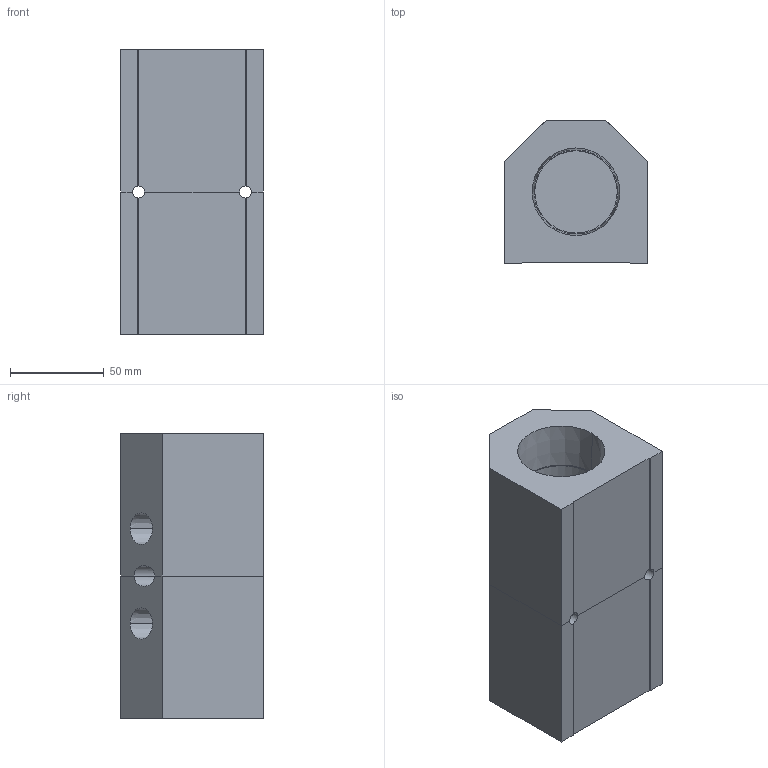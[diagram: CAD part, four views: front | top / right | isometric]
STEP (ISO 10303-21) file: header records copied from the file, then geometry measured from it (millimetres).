
FILE_DESCRIPTION (( 'STEP AP214' ), '1' );
FILE_NAME ('ALM2BD-N6N24-152RB.step', '2022-02-07T09:15:51', ( '' ), ( '' ), 'SwSTEP 2.0', 'SolidWorks 2020', '' );
FILE_SCHEMA (( 'AUTOMOTIVE_DESIGN' ));
Length unit declared in the file: millimetre
Products named in the file (1): ALM2BD-N6N24-152RB
Bounding box: 76.2 x 76.2 x 152 mm (x, y, z)
Volume: 549585.4 mm3; surface area: 87077.1 mm2
Topology: 2 solids, 2 shells, 335 faces, 880 edges, 586 vertices
Faces by surface type: plane 239, bspline 68, cylinder 16, cone 12
Entity records: 17941 total; most frequent: CARTESIAN_POINT 7050, ORIENTED_EDGE 1760, DIRECTION 1306, EDGE_CURVE 880, LINE 682, VECTOR 682, VERTEX_POINT 586, EDGE_LOOP 380
